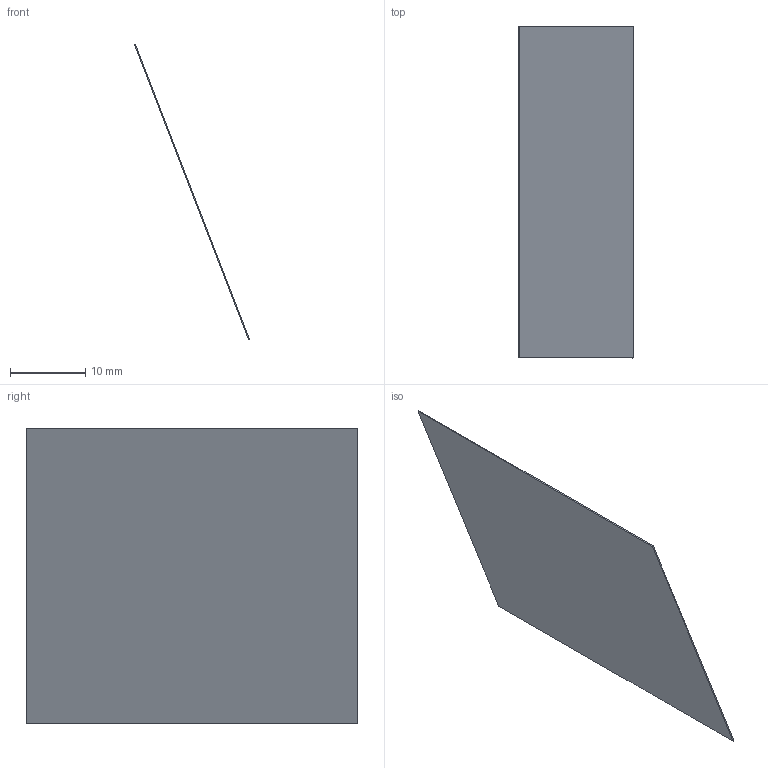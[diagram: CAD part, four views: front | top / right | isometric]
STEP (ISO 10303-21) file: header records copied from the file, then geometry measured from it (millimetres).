
FILE_DESCRIPTION(('Open CASCADE Model'),'2;1');
FILE_NAME('Open CASCADE Shape Model','2026-10-04T02:31:42',('Author'),( 'Open CASCADE'),'Open CASCADE STEP processor 8.0','Open CASCADE 8.0' ,'Unknown');
FILE_SCHEMA(('AUTOMOTIVE_DESIGN { 1 0 10303 214 1 1 1 1 }'));
Length unit declared in the file: millimetre
Products named in the file (1): Open CASCADE STEP translator 8.0 289
Bounding box: 15.29 x 44 x 39.28 mm (x, y, z)
Volume: 277.6 mm3; surface area: 3726.5 mm2
Topology: 1 solids, 1 shells, 6 faces, 12 edges, 8 vertices
Faces by surface type: plane 6
Entity records: 322 total; most frequent: CARTESIAN_POINT 51, DIRECTION 50, LINE 36, VECTOR 36, ORIENTED_EDGE 24, PCURVE 24, DEFINITIONAL_REPRESENTATION 24, EDGE_CURVE 12
